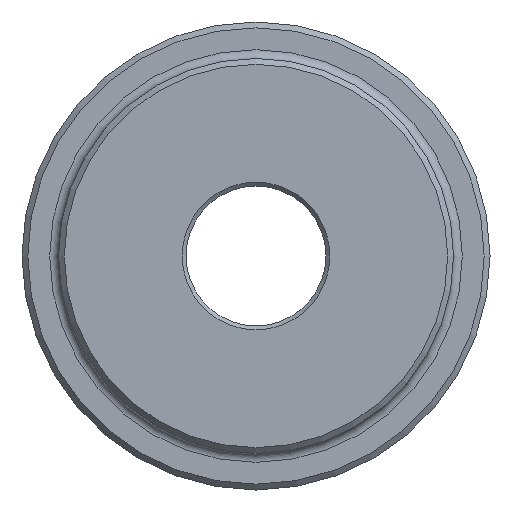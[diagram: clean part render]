
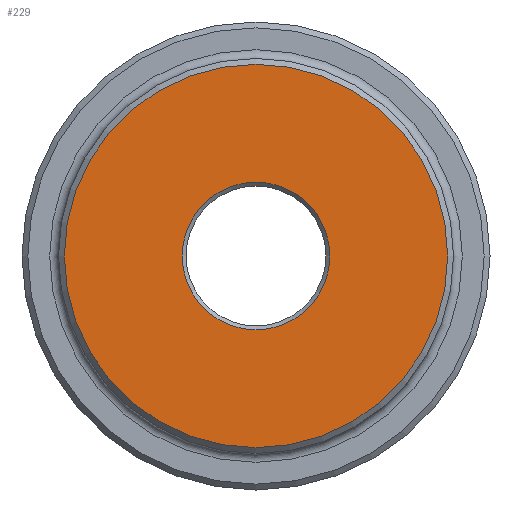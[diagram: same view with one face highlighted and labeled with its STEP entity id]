
A CAD part, left-side view. The second image highlights one B-rep face of the part: STEP entity #229.
In plain terms, the highlighted planar face has unit normal (-1, 0, 0).
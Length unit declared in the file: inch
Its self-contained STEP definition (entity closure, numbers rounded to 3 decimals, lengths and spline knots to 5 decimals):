
#194 = CARTESIAN_POINT ( 'NONE',  ( 0., 0., -1.97 ) ) ;
#199 = CARTESIAN_POINT ( 'NONE',  ( 0., 0., -0.759 ) ) ;
#229 = ADVANCED_FACE ( 'NONE', ( #712, #414 ), #854, .F. ) ;
#293 = EDGE_CURVE ( 'NONE', #431, #431, #1843, .T. ) ;
#414 = FACE_OUTER_BOUND ( 'NONE', #2155, .T. ) ;
#431 = VERTEX_POINT ( 'NONE', #199 ) ;
#663 = DIRECTION ( 'NONE',  ( -1., 0., 0. ) ) ;
#706 = DIRECTION ( 'NONE',  ( 0., 0., -1. ) ) ;
#712 = FACE_BOUND ( 'NONE', #1932, .T. ) ;
#854 = PLANE ( 'NONE',  #1489 ) ;
#965 = DIRECTION ( 'NONE',  ( 1., 0., 0. ) ) ;
#1118 = CARTESIAN_POINT ( 'NONE',  ( 0., 0., 0. ) ) ;
#1188 = DIRECTION ( 'NONE',  ( 0., 0., -1. ) ) ;
#1203 = DIRECTION ( 'NONE',  ( 0., 0., -1. ) ) ;
#1310 = DIRECTION ( 'NONE',  ( 1., 0., 0. ) ) ;
#1411 = AXIS2_PLACEMENT_3D ( 'NONE', #2250, #1310, #1188 ) ;
#1484 = AXIS2_PLACEMENT_3D ( 'NONE', #1118, #663, #1203 ) ;
#1489 = AXIS2_PLACEMENT_3D ( 'NONE', #1606, #965, #706 ) ;
#1606 = CARTESIAN_POINT ( 'NONE',  ( 0., 0., 0. ) ) ;
#1611 = EDGE_CURVE ( 'NONE', #2349, #2349, #1908, .T. ) ;
#1627 = ORIENTED_EDGE ( 'NONE', *, *, #1611, .T. ) ;
#1843 = CIRCLE ( 'NONE', #1411, 0.759 ) ;
#1908 = CIRCLE ( 'NONE', #1484, 1.97 ) ;
#1932 = EDGE_LOOP ( 'NONE', ( #2012 ) ) ;
#2012 = ORIENTED_EDGE ( 'NONE', *, *, #293, .T. ) ;
#2155 = EDGE_LOOP ( 'NONE', ( #1627 ) ) ;
#2250 = CARTESIAN_POINT ( 'NONE',  ( 0., 0., 0. ) ) ;
#2349 = VERTEX_POINT ( 'NONE', #194 ) ;
